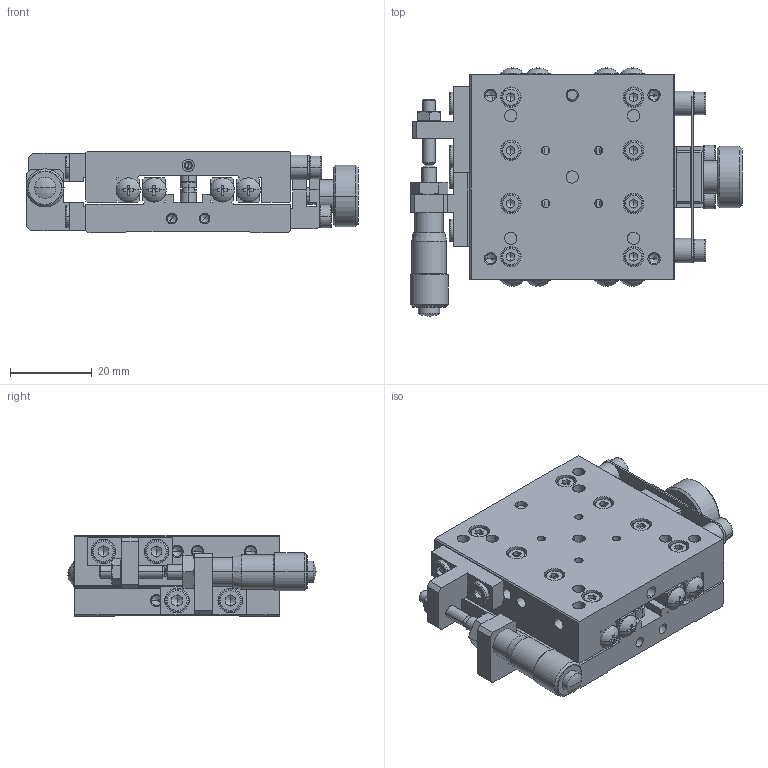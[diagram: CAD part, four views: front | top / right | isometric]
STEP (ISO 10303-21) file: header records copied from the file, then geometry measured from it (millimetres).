
FILE_DESCRIPTION (( 'STEP AP214' ), '1' );
FILE_NAME ('XM05A-S1.STEP', '2007-08-07T00:15:09', ( ' ' ), ( ' ' ), 'SwSTEP 2.0', 'SolidWorks 2006052', '' );
FILE_SCHEMA (( 'AUTOMOTIVE_DESIGN' ));
Length unit declared in the file: millimetre
Products named in the file (3): 001010-1023(3D)-8; 001010-1011(3D)-8; XM05A-S1
Assembly tree (2 placements, depth 2):
  XM05A-S1
    001010-1023(3D)-8
    001010-1011(3D)-8
Bounding box: 81.15 x 60.68 x 20 mm (x, y, z)
Volume: 48692.1 mm3; surface area: 30134.3 mm2
Topology: 2 solids, 49 shells, 1714 faces, 3906 edges, 2314 vertices
Faces by surface type: plane 811, cylinder 502, cone 285, torus 96, sphere 20
Entity records: 47739 total; most frequent: DIRECTION 8789, CARTESIAN_POINT 8549, ORIENTED_EDGE 7600, EDGE_CURVE 3800, AXIS2_PLACEMENT_3D 3394, VERTEX_POINT 2314, LINE 2001, VECTOR 2001
